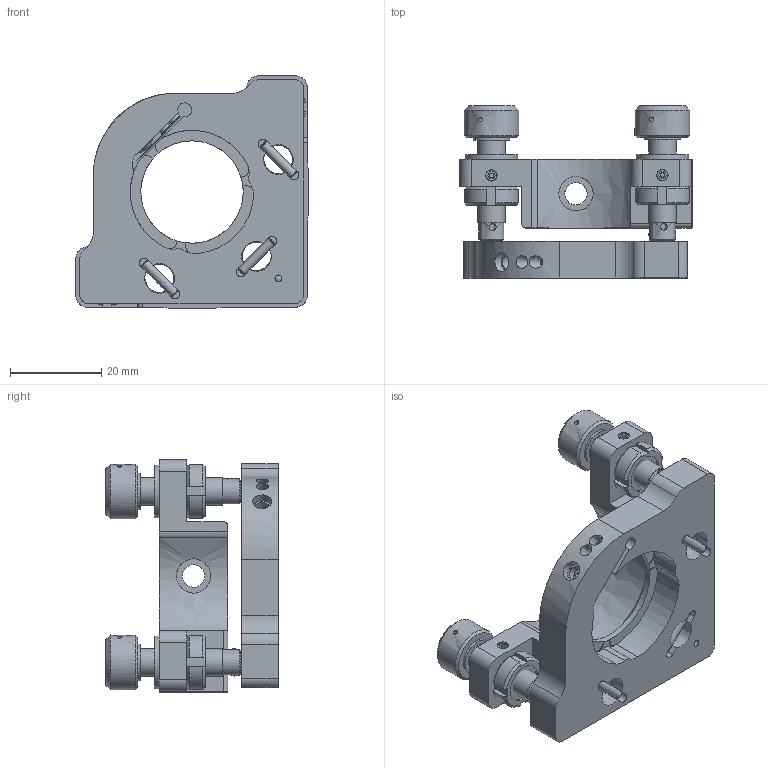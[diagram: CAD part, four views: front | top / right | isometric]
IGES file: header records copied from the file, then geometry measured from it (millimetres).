
Global section: file name: VMHG-254-NM_IGS; native system: Autodesk Inventor 2023; preprocessor: unknown; author: e.nonaka; date: 20250513.131655; units: millimetre
Bounding box: 50.8 x 37.7 x 50.8 mm (x, y, z)
Volume: 25550.4 mm3; surface area: 15834.9 mm2
Topology: 10 solids, 16 shells, 446 faces, 1234 edges, 823 vertices
Faces by surface type: bspline 446
